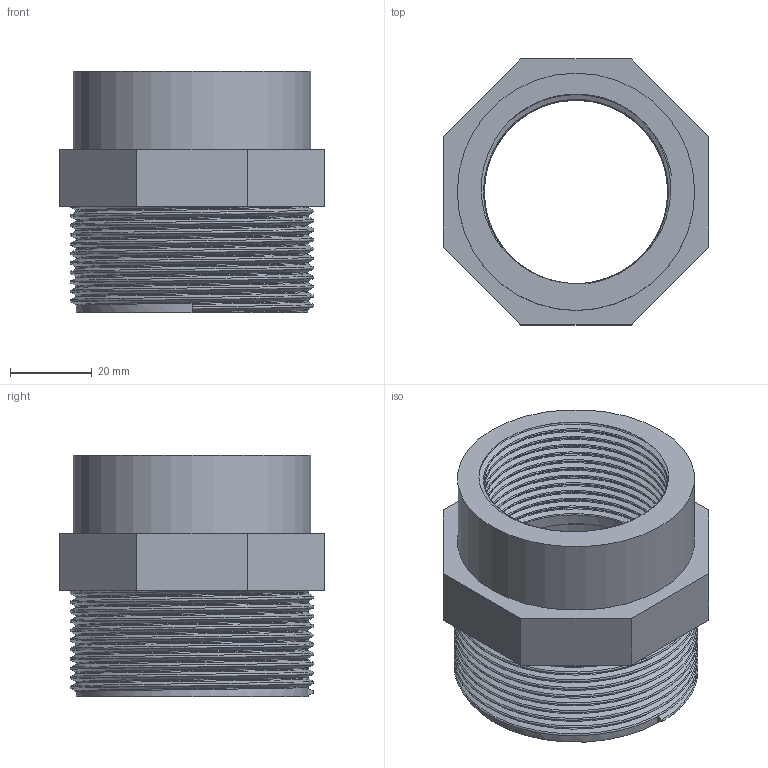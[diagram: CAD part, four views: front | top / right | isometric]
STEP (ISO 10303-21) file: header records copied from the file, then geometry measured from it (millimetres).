
FILE_DESCRIPTION(/* description */ (''),/* implementation_level */ '2;1');
FILE_NAME(/* name */ 'C:\Users\POLYPIPE\Desktop\DATASET INVENTOR\LIBRERIA EFFAST\RACCORDI 3DxWEB\RER\3D_RERRIE\3D_RERRIE063F.stp',/* time_stamp */ '2018-01-19T17:12:55+01:00',/* author */ ('POLYPIPE'),/* organization */ ('Polypipe Italia'),/* preprocessor_version */ 'ST-DEVELOPER v16.1',/* originating_system */ 'Autodesk Inventor 2016',/* authorisation */ '');
FILE_SCHEMA (('CONFIG_CONTROL_DESIGN'));
Length unit declared in the file: millimetre
Products named in the file (1): 3D_RERRIE063F
Bounding box: 65 x 65 x 59 mm (x, y, z)
Volume: 70842.7 mm3; surface area: 29353 mm2
Topology: 1 solids, 1 shells, 29 faces, 68 edges, 44 vertices
Faces by surface type: plane 15, bspline 10, cylinder 4
Full cylindrical faces by diameter (mm): 44.845 x1, 45.4 x1, 56.656 x1, 58 x1
Entity records: 9609 total; most frequent: CARTESIAN_POINT 8994, ORIENTED_EDGE 128, DIRECTION 94, EDGE_CURVE 64, VERTEX_POINT 43, EDGE_LOOP 37, AXIS2_PLACEMENT_3D 32, LINE 30
